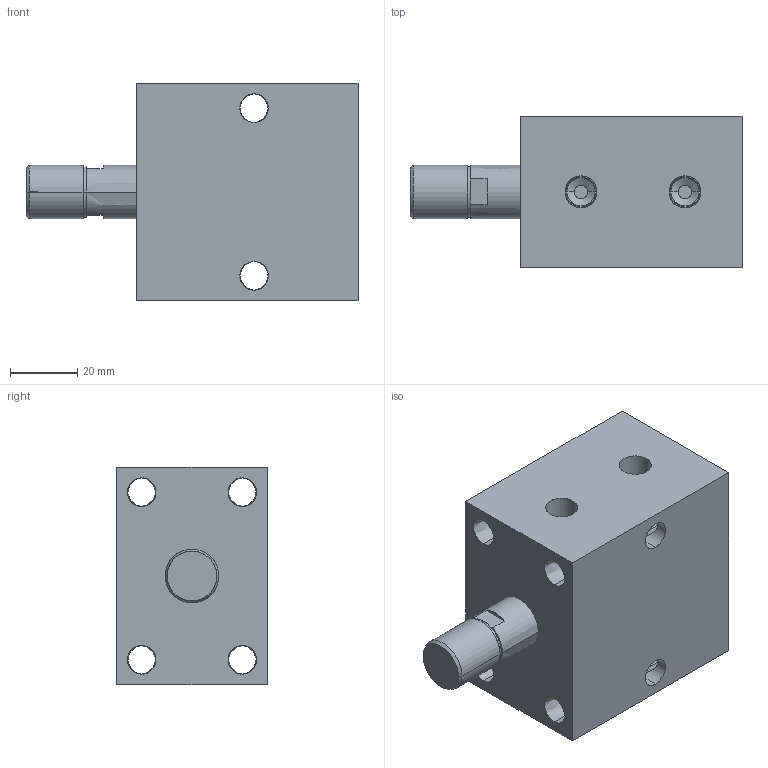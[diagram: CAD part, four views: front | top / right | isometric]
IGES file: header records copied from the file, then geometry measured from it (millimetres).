
Start section: SolidWorks IGES file using analytic representation for surfaces
Global section: file name: C:\Documents and Settings\rajib\Desktop\Rajib\BLOCK CYLINDER HYDRAULIC\0201-0206\0201.IGS; native system: SolidWorks 2007; preprocessor: SolidWorks 2007; author: rajib; date: 110121.094018; units: millimetre
Bounding box: 99 x 45 x 65 mm (x, y, z)
Surface area: 33256.3 mm2 (no closed solid volume)
Topology: 0 solids, 0 shells, 76 faces, 1704 edges, 1704 vertices
Faces by surface type: revolution 54, bspline 22
